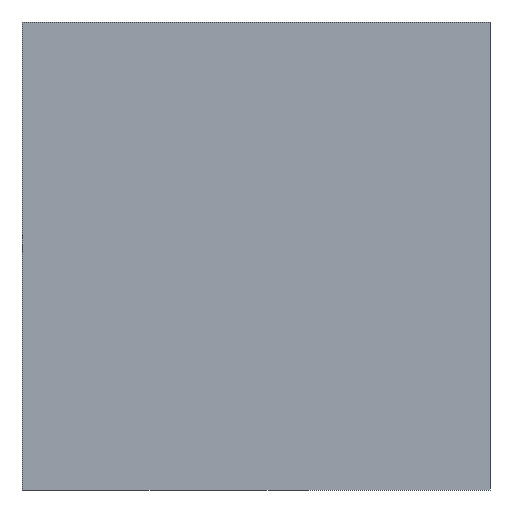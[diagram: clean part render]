
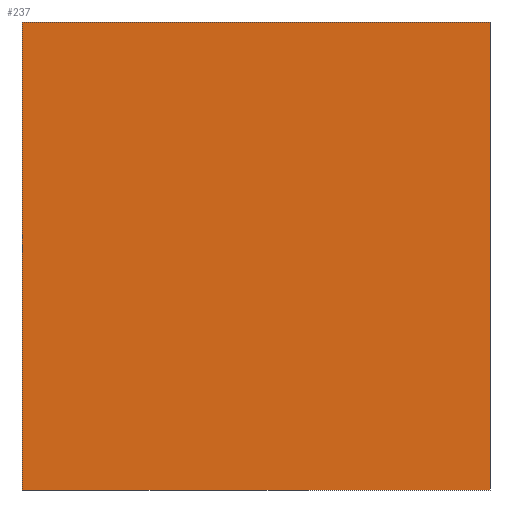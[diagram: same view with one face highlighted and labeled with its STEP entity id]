
A CAD part, left-side view. The second image highlights one B-rep face of the part: STEP entity #237.
In plain terms, the highlighted planar face has unit normal (-1, 0, 0).
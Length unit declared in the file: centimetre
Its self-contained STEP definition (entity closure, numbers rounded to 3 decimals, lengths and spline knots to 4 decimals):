
#2 = LINE ( 'NONE', #136, #316 ) ;
#14 = ORIENTED_EDGE ( 'NONE', *, *, #290, .F. ) ;
#30 = AXIS2_PLACEMENT_3D ( 'NONE', #628, #472, #618 ) ;
#59 = DIRECTION ( 'NONE',  ( 0., 0., -1. ) ) ;
#128 = DIRECTION ( 'NONE',  ( 0., -1., 0. ) ) ;
#136 = CARTESIAN_POINT ( 'NONE',  ( 0., 0., 1000. ) ) ;
#185 = VECTOR ( 'NONE', #128, 100. ) ;
#197 = DIRECTION ( 'NONE',  ( 0., -1., 0. ) ) ;
#216 = ORIENTED_EDGE ( 'NONE', *, *, #428, .T. ) ;
#236 = VECTOR ( 'NONE', #59, 100. ) ;
#237 = ADVANCED_FACE ( 'NONE', ( #749 ), #327, .F. ) ;
#268 = CARTESIAN_POINT ( 'NONE',  ( 0., 0., 1000. ) ) ;
#290 = EDGE_CURVE ( 'NONE', #651, #376, #763, .T. ) ;
#291 = CARTESIAN_POINT ( 'NONE',  ( 0., 0., 0. ) ) ;
#316 = VECTOR ( 'NONE', #930, 100. ) ;
#322 = CARTESIAN_POINT ( 'NONE',  ( 0., 1000., 0. ) ) ;
#327 = PLANE ( 'NONE',  #30 ) ;
#347 = LINE ( 'NONE', #627, #236 ) ;
#376 = VERTEX_POINT ( 'NONE', #268 ) ;
#398 = CARTESIAN_POINT ( 'NONE',  ( 0., 1000., 1000. ) ) ;
#428 = EDGE_CURVE ( 'NONE', #696, #514, #703, .T. ) ;
#442 = EDGE_LOOP ( 'NONE', ( #216, #493, #14, #530 ) ) ;
#467 = EDGE_CURVE ( 'NONE', #376, #514, #2, .T. ) ;
#472 = DIRECTION ( 'NONE',  ( 1., 0., 0. ) ) ;
#493 = ORIENTED_EDGE ( 'NONE', *, *, #467, .F. ) ;
#514 = VERTEX_POINT ( 'NONE', #291 ) ;
#530 = ORIENTED_EDGE ( 'NONE', *, *, #772, .T. ) ;
#618 = DIRECTION ( 'NONE',  ( 0., 0., -1. ) ) ;
#627 = CARTESIAN_POINT ( 'NONE',  ( 0., 1000., 1000. ) ) ;
#628 = CARTESIAN_POINT ( 'NONE',  ( 0., 1000., 1000. ) ) ;
#651 = VERTEX_POINT ( 'NONE', #398 ) ;
#696 = VERTEX_POINT ( 'NONE', #322 ) ;
#703 = LINE ( 'NONE', #849, #185 ) ;
#749 = FACE_OUTER_BOUND ( 'NONE', #442, .T. ) ;
#763 = LINE ( 'NONE', #837, #878 ) ;
#772 = EDGE_CURVE ( 'NONE', #651, #696, #347, .T. ) ;
#837 = CARTESIAN_POINT ( 'NONE',  ( 0., 1000., 1000. ) ) ;
#849 = CARTESIAN_POINT ( 'NONE',  ( 0., 1000., 0. ) ) ;
#878 = VECTOR ( 'NONE', #197, 100. ) ;
#930 = DIRECTION ( 'NONE',  ( 0., 0., -1. ) ) ;
